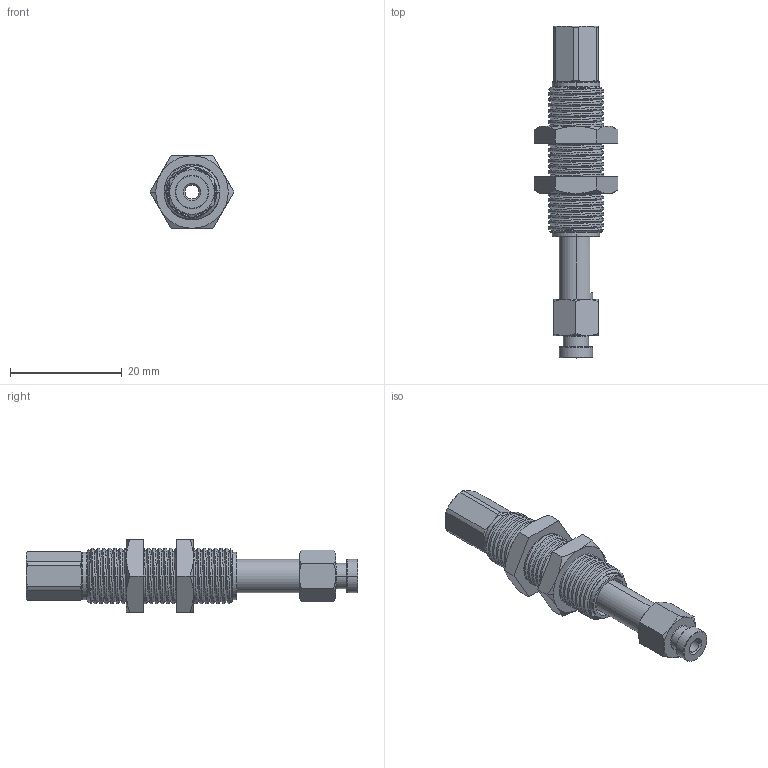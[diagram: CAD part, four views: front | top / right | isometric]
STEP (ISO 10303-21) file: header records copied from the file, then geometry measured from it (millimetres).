
FILE_DESCRIPTION (( 'STEP AP203' ), '1' );
FILE_NAME ('bln04-sbt10m10nk55a-m5b-耳6耳4.5_asm.STEP', '2024-10-29T05:32:21', ( '' ), ( '' ), 'SwSTEP 2.0', 'SolidWorks 2022', '' );
FILE_SCHEMA (( 'CONFIG_CONTROL_DESIGN' ));
Length unit declared in the file: millimetre
Products named in the file (1): bln04-sbt10m10nk55a-m5b-φ6φ4.5_asm
Bounding box: 15.01 x 59.5 x 13 mm (x, y, z)
Surface area: 3207.5 mm2 (no closed solid volume)
Topology: 0 solids, 9 shells, 209 faces, 578 edges, 379 vertices
Faces by surface type: cone 80, cylinder 70, plane 40, bspline 19
Entity records: 14205 total; most frequent: CARTESIAN_POINT 9354, ORIENTED_EDGE 1042, DIRECTION 831, EDGE_CURVE 578, VERTEX_POINT 379, AXIS2_PLACEMENT_3D 339, B_SPLINE_CURVE_WITH_KNOTS 277, EDGE_LOOP 222
